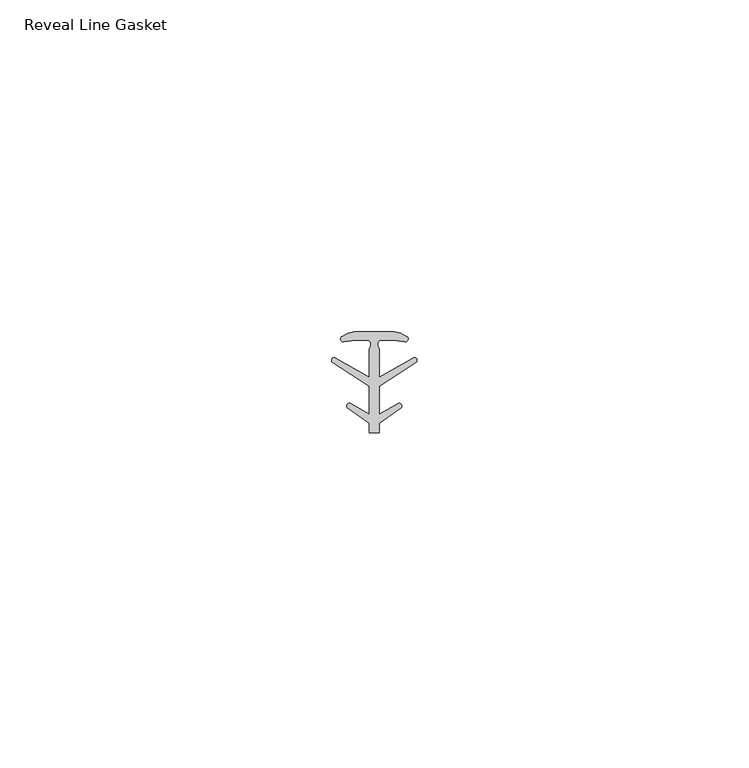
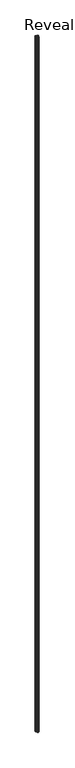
"""IFC4 building model written with IfcOpenShell, lengths in millimetres: proxy geometry, Accessories-Teknion-FHGR-AI_Healthcare-Reveal_Line_Gasket-R2021 : Reveal Line Gasket."""

from ifc_helpers import new_model, si_unit, point, frame, frame_2d, origin, place, context, project, spatial, polyline, circle_curve, trimmed, segment, composite_curve, outline, extrude, source, transform, mapped, element, save


def reveal_line_gasket_f25f5f4f(model_context):
    return source(origin(), model_context, "Body", "SweptSolid", [
        extrude(outline(composite_curve([segment(polyline([(2.999107, 7.6326998), (3.9545998, 7.4091917), (4.8875754, 6.8813059)]), True, "CONTINUOUS"), segment(trimmed(circle_curve(frame_2d((4.6855864, 6.5243141)), 0.4101739), [point((4.8875754, 6.8813059))], [point((4.5932418, 6.1246704))], False, "CARTESIAN"), True, "CONTINUOUS"), segment(polyline([(4.5932418, 6.1246704), (2.8970156, 6.3626997), (0.8645598, 6.3626997)]), True, "CONTINUOUS"), segment(trimmed(circle_curve(frame_2d((1.2810328, 5.6959605)), 0.786124), [point((0.8645598, 6.3626997))], [point((0.7769821, 5.0926996))], True, "CARTESIAN"), True, "CONTINUOUS"), segment(polyline([(0.7769821, 5.0926996), (0.7769821, 0.7492996), (5.9386365, 3.7293824)]), True, "CONTINUOUS"), segment(trimmed(circle_curve(frame_2d((6.0040832, 3.3132479)), 0.4212495), [point((5.9386365, 3.7293824))], [point((6.3317429, 3.0485022))], False, "CARTESIAN"), True, "CONTINUOUS"), segment(polyline([(6.3317429, 3.0485022), (0.7769821, -0.5742594), (0.7769821, -4.8262978), (3.6526367, -3.1660374)]), True, "CONTINUOUS"), segment(trimmed(circle_curve(frame_2d((3.7109925, -3.5978728)), 0.4357605), [point((3.6526367, -3.1660374))], [point((4.0557951, -3.864328))], False, "CARTESIAN"), True, "CONTINUOUS"), segment(polyline([(4.0557951, -3.864328), (0.7769821, -6.1944059), (0.7769821, -7.6326998), (-0.778768, -7.6326998), (-0.778768, -6.1944059), (-4.0575811, -3.864328)]), True, "CONTINUOUS"), segment(trimmed(circle_curve(frame_2d((-3.7127785, -3.5978728)), 0.4357605), [point((-4.0575811, -3.864328))], [point((-3.6544226, -3.1660374))], False, "CARTESIAN"), True, "CONTINUOUS"), segment(polyline([(-3.6544226, -3.1660374), (-0.778768, -4.8262978), (-0.778768, -0.5742594), (-6.3335288, 3.0485022)]), True, "CONTINUOUS"), segment(trimmed(circle_curve(frame_2d((-6.0058691, 3.3132479)), 0.4212495), [point((-6.3335288, 3.0485022))], [point((-5.9404224, 3.7293824))], False, "CARTESIAN"), True, "CONTINUOUS"), segment(polyline([(-5.9404224, 3.7293824), (-0.778768, 0.7492996), (-0.778768, 5.0926996)]), True, "CONTINUOUS"), segment(trimmed(circle_curve(frame_2d((-1.2828188, 5.6959605)), 0.786124), [point((-0.778768, 5.0926996))], [point((-0.8663457, 6.3626997))], True, "CARTESIAN"), True, "CONTINUOUS"), segment(polyline([(-0.8663457, 6.3626997), (-2.8988015, 6.3626997), (-4.5950277, 6.1246704)]), True, "CONTINUOUS"), segment(trimmed(circle_curve(frame_2d((-4.6873723, 6.5243141)), 0.4101739), [point((-4.5950277, 6.1246704))], [point((-4.8893614, 6.8813059))], False, "CARTESIAN"), True, "CONTINUOUS"), segment(polyline([(-4.8893614, 6.8813059), (-3.9563857, 7.4091917), (-3.000893, 7.6326998), (2.999107, 7.6326998)]), True, "CONTINUOUS")], self_intersect=False)), frame((0.0, 0.0, 84.836), z_axis=(0.0, 0.0, 1.0), x_axis=(1.0, 0.0, 0.0)), (0.0, 0.0, 1.0), 2963.164),
    ])


if __name__ == "__main__":
    model = new_model("IFC4")
    model_context = context("Model", 3, world=origin())
    ifc_project = project(units=[si_unit("LENGTHUNIT", "METRE", prefix="MILLI")], contexts=[model_context])
    site = spatial("IfcSite", under=ifc_project)
    building = spatial("IfcBuilding", under=site)
    placement = place(None, origin())
    reveal_line_gasket_shape = reveal_line_gasket_f25f5f4f(model_context)
    element("IfcBuildingElementProxy", 1, Name="Accessories-Teknion-FHGR-AI_Healthcare-Reveal_Line_Gasket-R2021 : Reveal Line Gasket", ObjectType="Accessories-Teknion-FHGR-AI_Healthcare-Reveal_Line_Gasket-R2021 : Reveal Line Gasket", at=placement, inside=building, context=model_context, shape_type="MappedRepresentation", body=[
        mapped(reveal_line_gasket_shape, transform((0.0, 0.0, 0.0), x_axis=(1.0, 0.0, 0.0), y_axis=(0.0, 1.0, 0.0), z_axis=(0.0, 0.0, 1.0))),
    ])
    save(model, "model.ifc")
